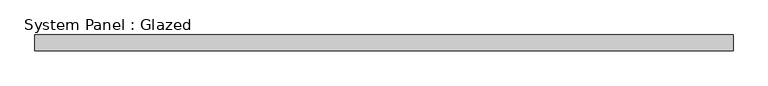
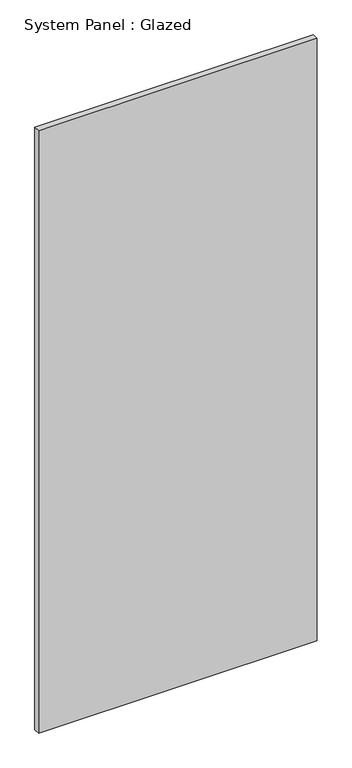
"""IFC4 building model written with IfcOpenShell, lengths in millimetres: plate geometry, System Panel : Glazed."""

from ifc_helpers import new_model, si_unit, origin, origin_with_axes, place, context, project, spatial, polyline, outline, extrude, source, transform, mapped, element, save


def system_panel_glazed_545210b6(model_context):
    return source(origin(), model_context, "Body", "SweptSolid", [
        extrude(outline(polyline([(568.325, 19.05), (-568.325, 19.05), (-568.325, 44.45), (568.325, 44.45), (568.325, 19.05)])), origin_with_axes(), (0.0, 0.0, 1.0), 2597.7570075),
    ])


if __name__ == "__main__":
    model = new_model("IFC4")
    model_context = context("Model", 3, world=origin())
    ifc_project = project(units=[si_unit("LENGTHUNIT", "METRE", prefix="MILLI")], contexts=[model_context])
    site = spatial("IfcSite", under=ifc_project)
    building = spatial("IfcBuilding", under=site)
    placement = place(None, origin())
    system_panel_glazed_shape = system_panel_glazed_545210b6(model_context)
    element("IfcPlate", 1, ObjectType="System Panel : Glazed", at=placement, inside=building, context=model_context, shape_type="MappedRepresentation", body=[
        mapped(system_panel_glazed_shape, transform((0.0, 0.0, 0.0), x_axis=(1.0, 0.0, 0.0), y_axis=(0.0, 1.0, 0.0), z_axis=(0.0, 0.0, 1.0))),
    ])
    save(model, "model.ifc")
